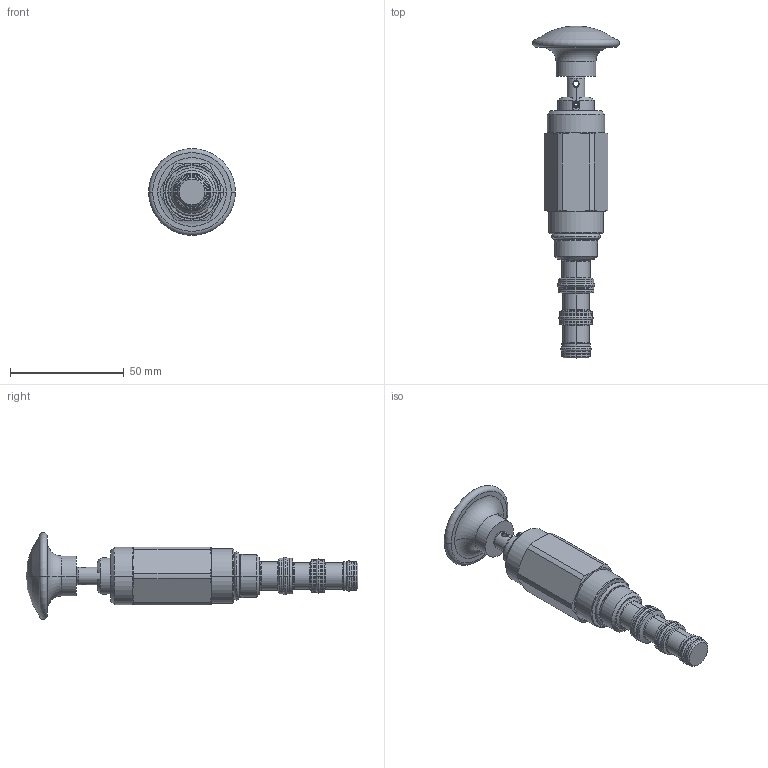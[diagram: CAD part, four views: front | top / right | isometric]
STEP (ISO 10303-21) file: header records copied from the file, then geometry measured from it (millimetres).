
FILE_DESCRIPTION((''),'2;1');
FILE_NAME('5270600_SW0002','2009-02-04T',('jcs'),(''),'PRO/ENGINEER BY PARAMETRIC TECHNOLOGY CORPORATION, 2008010','PRO/ENGINEER BY PARAMETRIC TECHNOLOGY CORPORATION, 2008010','');
FILE_SCHEMA(('CONFIG_CONTROL_DESIGN'));
Length unit declared in the file: inch
Products named in the file (1): 5270600_SW0002
Bounding box: 38.1 x 145.72 x 38.1 mm (x, y, z)
Volume: 48744.6 mm3; surface area: 14279.6 mm2
Topology: 6 solids, 6 shells, 251 faces, 565 edges, 327 vertices
Faces by surface type: cylinder 72, cone 57, plane 46, torus 42, revolution 32, sphere 2
Entity records: 8007 total; most frequent: CARTESIAN_POINT 2303, DIRECTION 1265, ORIENTED_EDGE 1126, EDGE_CURVE 563, AXIS2_PLACEMENT_3D 533, VERTEX_POINT 327, CIRCLE 314, EDGE_LOOP 268
